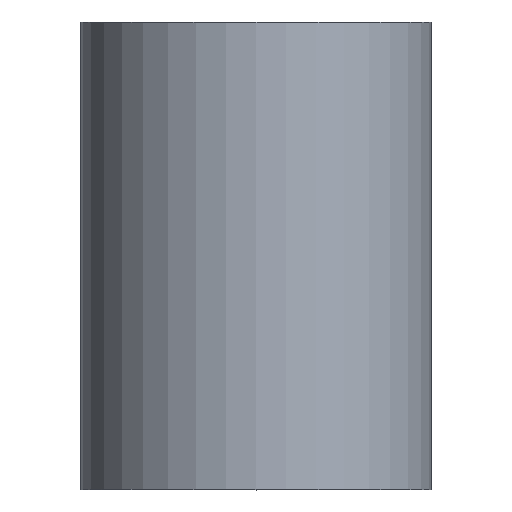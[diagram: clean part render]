
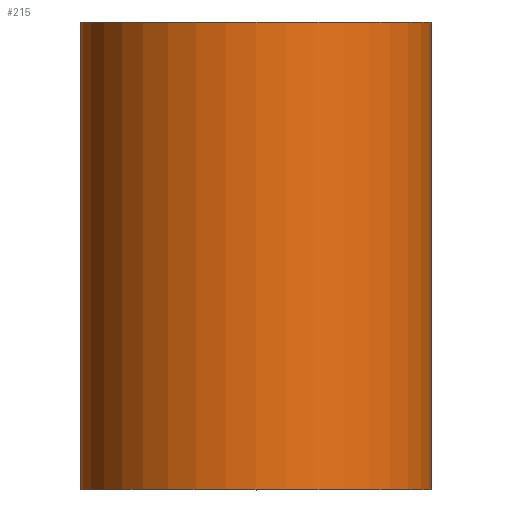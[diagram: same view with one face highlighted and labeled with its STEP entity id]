
A CAD part, top view. The second image highlights one B-rep face of the part: STEP entity #215.
In plain terms, the highlighted cylindrical face has radius 3 mm (diameter 6 mm), a partial arc.
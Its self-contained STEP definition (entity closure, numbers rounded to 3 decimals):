
#2 = DIRECTION ( 'NONE',  ( 0., 1., 0. ) ) ;
#20 = CARTESIAN_POINT ( 'NONE',  ( -3., 0., 0. ) ) ;
#24 = CARTESIAN_POINT ( 'NONE',  ( 3., 8., 0. ) ) ;
#26 = VERTEX_POINT ( 'NONE', #24 ) ;
#43 = LINE ( 'NONE', #98, #156 ) ;
#48 = ORIENTED_EDGE ( 'NONE', *, *, #76, .F. ) ;
#49 = DIRECTION ( 'NONE',  ( -1., 0., 0. ) ) ;
#52 = VERTEX_POINT ( 'NONE', #116 ) ;
#54 = EDGE_CURVE ( 'NONE', #52, #130, #284, .T. ) ;
#62 = ORIENTED_EDGE ( 'NONE', *, *, #223, .T. ) ;
#67 = DIRECTION ( 'NONE',  ( -1., 0., 0. ) ) ;
#76 = EDGE_CURVE ( 'NONE', #52, #113, #279, .T. ) ;
#82 = VECTOR ( 'NONE', #185, 1000. ) ;
#97 = CARTESIAN_POINT ( 'NONE',  ( 0., 0., 0. ) ) ;
#98 = CARTESIAN_POINT ( 'NONE',  ( 3., 0., 0. ) ) ;
#113 = VERTEX_POINT ( 'NONE', #121 ) ;
#116 = CARTESIAN_POINT ( 'NONE',  ( -3., 0., 0. ) ) ;
#121 = CARTESIAN_POINT ( 'NONE',  ( -3., 8., 0. ) ) ;
#129 = AXIS2_PLACEMENT_3D ( 'NONE', #214, #189, #49 ) ;
#130 = VERTEX_POINT ( 'NONE', #250 ) ;
#133 = EDGE_LOOP ( 'NONE', ( #182, #62, #171, #48 ) ) ;
#150 = DIRECTION ( 'NONE',  ( 0., 1., 0. ) ) ;
#156 = VECTOR ( 'NONE', #150, 1000. ) ;
#157 = AXIS2_PLACEMENT_3D ( 'NONE', #236, #2, #210 ) ;
#170 = CYLINDRICAL_SURFACE ( 'NONE', #129, 3. ) ;
#171 = ORIENTED_EDGE ( 'NONE', *, *, #275, .F. ) ;
#182 = ORIENTED_EDGE ( 'NONE', *, *, #54, .T. ) ;
#185 = DIRECTION ( 'NONE',  ( 0., 1., 0. ) ) ;
#189 = DIRECTION ( 'NONE',  ( 0., 1., 0. ) ) ;
#210 = DIRECTION ( 'NONE',  ( -1., 0., 0. ) ) ;
#214 = CARTESIAN_POINT ( 'NONE',  ( 0., 0., 0. ) ) ;
#215 = ADVANCED_FACE ( 'NONE', ( #272 ), #170, .T. ) ;
#219 = AXIS2_PLACEMENT_3D ( 'NONE', #97, #296, #67 ) ;
#220 = CIRCLE ( 'NONE', #157, 3. ) ;
#223 = EDGE_CURVE ( 'NONE', #130, #26, #43, .T. ) ;
#236 = CARTESIAN_POINT ( 'NONE',  ( 0., 8., 0. ) ) ;
#250 = CARTESIAN_POINT ( 'NONE',  ( 3., 0., 0. ) ) ;
#272 = FACE_OUTER_BOUND ( 'NONE', #133, .T. ) ;
#275 = EDGE_CURVE ( 'NONE', #113, #26, #220, .T. ) ;
#279 = LINE ( 'NONE', #20, #82 ) ;
#284 = CIRCLE ( 'NONE', #219, 3. ) ;
#296 = DIRECTION ( 'NONE',  ( 0., 1., 0. ) ) ;
